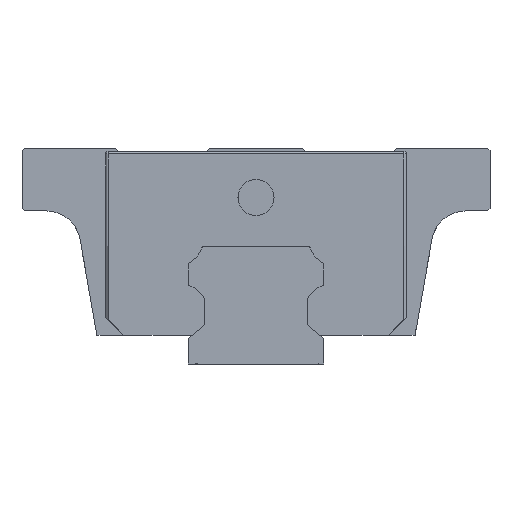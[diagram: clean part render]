
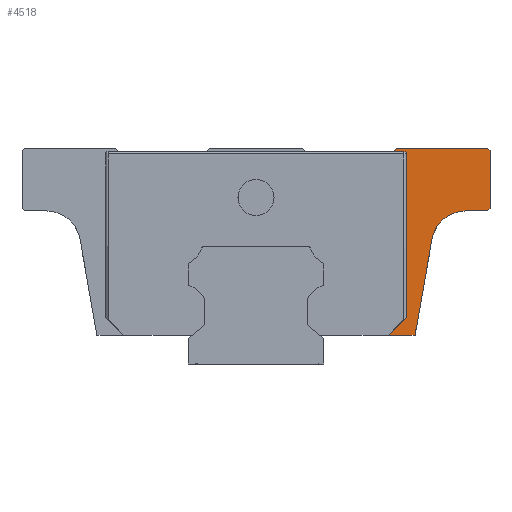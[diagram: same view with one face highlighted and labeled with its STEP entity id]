
A CAD part, left-side view. The second image highlights one B-rep face of the part: STEP entity #4518.
In plain terms, the highlighted planar face has unit normal (-1, 0, 0).
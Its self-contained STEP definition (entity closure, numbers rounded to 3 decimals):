
#110 = VECTOR ( 'NONE', #6209, 1000. ) ;
#151 = CARTESIAN_POINT ( 'NONE',  ( -19.75, -26., 17. ) ) ;
#153 = CARTESIAN_POINT ( 'NONE',  ( -19.75, -15.6, 24. ) ) ;
#235 = CARTESIAN_POINT ( 'NONE',  ( -19.75, -17.674, 3.2 ) ) ;
#236 = DIRECTION ( 'NONE',  ( -1., 0., 0. ) ) ;
#281 = EDGE_CURVE ( 'NONE', #586, #2156, #6918, .T. ) ;
#282 = ORIENTED_EDGE ( 'NONE', *, *, #3561, .T. ) ;
#306 = CIRCLE ( 'NONE', #4285, 0.26 ) ;
#524 = ORIENTED_EDGE ( 'NONE', *, *, #2426, .T. ) ;
#565 = ORIENTED_EDGE ( 'NONE', *, *, #2037, .T. ) ;
#586 = VERTEX_POINT ( 'NONE', #1784 ) ;
#601 = ORIENTED_EDGE ( 'NONE', *, *, #281, .T. ) ;
#622 = VERTEX_POINT ( 'NONE', #4623 ) ;
#764 = CARTESIAN_POINT ( 'NONE',  ( -19.75, -26.564, 23.176 ) ) ;
#798 = VECTOR ( 'NONE', #5285, 1000. ) ;
#809 = DIRECTION ( 'NONE',  ( 0., 0.707, 0.707 ) ) ;
#839 = VERTEX_POINT ( 'NONE', #2692 ) ;
#859 = DIRECTION ( 'NONE',  ( 1., 0., 0. ) ) ;
#982 = CARTESIAN_POINT ( 'NONE',  ( -19.75, -23.254, 17. ) ) ;
#1015 = VECTOR ( 'NONE', #2920, 1000. ) ;
#1051 = CARTESIAN_POINT ( 'NONE',  ( -19.75, -14.696, 3.2 ) ) ;
#1133 = ORIENTED_EDGE ( 'NONE', *, *, #1495, .F. ) ;
#1140 = VECTOR ( 'NONE', #809, 1000. ) ;
#1141 = EDGE_CURVE ( 'NONE', #5805, #586, #6848, .T. ) ;
#1201 = ORIENTED_EDGE ( 'NONE', *, *, #2658, .F. ) ;
#1423 = CARTESIAN_POINT ( 'NONE',  ( -19.75, -6.587, 3.2 ) ) ;
#1438 = CARTESIAN_POINT ( 'NONE',  ( -19.75, -26., 23.74 ) ) ;
#1472 = DIRECTION ( 'NONE',  ( 0., 0., 1. ) ) ;
#1495 = EDGE_CURVE ( 'NONE', #2737, #6194, #5773, .T. ) ;
#1564 = EDGE_CURVE ( 'NONE', #3236, #2979, #306, .T. ) ;
#1574 = CARTESIAN_POINT ( 'NONE',  ( -19.75, -25.74, 24. ) ) ;
#1674 = ORIENTED_EDGE ( 'NONE', *, *, #2132, .T. ) ;
#1684 = ORIENTED_EDGE ( 'NONE', *, *, #1141, .T. ) ;
#1711 = VECTOR ( 'NONE', #4687, 1000. ) ;
#1784 = CARTESIAN_POINT ( 'NONE',  ( -19.75, -25.74, 17. ) ) ;
#1925 = DIRECTION ( 'NONE',  ( 0., -1., 0. ) ) ;
#1960 = CARTESIAN_POINT ( 'NONE',  ( -19.75, -20.108, 17. ) ) ;
#1965 = CARTESIAN_POINT ( 'NONE',  ( -19.75, -16.702, 5.2 ) ) ;
#2037 = EDGE_CURVE ( 'NONE', #3796, #4396, #3375, .T. ) ;
#2118 = DIRECTION ( 'NONE',  ( 0., -1., 0. ) ) ;
#2123 = ORIENTED_EDGE ( 'NONE', *, *, #6130, .T. ) ;
#2129 = VECTOR ( 'NONE', #1925, 1000. ) ;
#2132 = EDGE_CURVE ( 'NONE', #4396, #839, #3478, .T. ) ;
#2155 = ORIENTED_EDGE ( 'NONE', *, *, #1564, .T. ) ;
#2156 = VERTEX_POINT ( 'NONE', #5826 ) ;
#2308 = ORIENTED_EDGE ( 'NONE', *, *, #5130, .T. ) ;
#2426 = EDGE_CURVE ( 'NONE', #839, #7030, #6650, .T. ) ;
#2620 = ORIENTED_EDGE ( 'NONE', *, *, #4033, .F. ) ;
#2658 = EDGE_CURVE ( 'NONE', #6194, #2979, #6346, .T. ) ;
#2692 = CARTESIAN_POINT ( 'NONE',  ( -19.75, -15.6, 24. ) ) ;
#2737 = VERTEX_POINT ( 'NONE', #1051 ) ;
#2818 = CARTESIAN_POINT ( 'NONE',  ( -19.75, -16.442, 23.595 ) ) ;
#2868 = LINE ( 'NONE', #151, #798 ) ;
#2920 = DIRECTION ( 'NONE',  ( 0., 1., 0. ) ) ;
#2979 = VERTEX_POINT ( 'NONE', #6769 ) ;
#3057 = DIRECTION ( 'NONE',  ( 0., -0.174, 0.985 ) ) ;
#3104 = CARTESIAN_POINT ( 'NONE',  ( -19.75, -14.696, 3.2 ) ) ;
#3236 = VERTEX_POINT ( 'NONE', #2818 ) ;
#3364 = LINE ( 'NONE', #4993, #1015 ) ;
#3375 = LINE ( 'NONE', #764, #1140 ) ;
#3478 = LINE ( 'NONE', #5651, #1711 ) ;
#3561 = EDGE_CURVE ( 'NONE', #622, #5805, #5451, .T. ) ;
#3641 = DIRECTION ( 'NONE',  ( 0., 0., 1. ) ) ;
#3796 = VERTEX_POINT ( 'NONE', #1438 ) ;
#3896 = CARTESIAN_POINT ( 'NONE',  ( -19.75, -17.674, 3.2 ) ) ;
#3976 = VECTOR ( 'NONE', #1472, 1000. ) ;
#3983 = EDGE_LOOP ( 'NONE', ( #1133, #2308, #6031, #282, #1684, #601, #2123, #565, #1674, #524, #2620, #2155, #1201 ) ) ;
#4033 = EDGE_CURVE ( 'NONE', #3236, #7030, #3364, .T. ) ;
#4061 = DIRECTION ( 'NONE',  ( 0., -0.707, 0.707 ) ) ;
#4085 = PLANE ( 'NONE',  #6516 ) ;
#4132 = VECTOR ( 'NONE', #4061, 1000. ) ;
#4178 = VECTOR ( 'NONE', #3057, 1000. ) ;
#4285 = AXIS2_PLACEMENT_3D ( 'NONE', #5740, #859, #3641 ) ;
#4328 = DIRECTION ( 'NONE',  ( 1., 0., 0. ) ) ;
#4396 = VERTEX_POINT ( 'NONE', #1574 ) ;
#4518 = ADVANCED_FACE ( 'NONE', ( #4620 ), #4085, .T. ) ;
#4602 = CARTESIAN_POINT ( 'NONE',  ( -19.75, -9.264, 0.524 ) ) ;
#4620 = FACE_OUTER_BOUND ( 'NONE', #3983, .T. ) ;
#4623 = CARTESIAN_POINT ( 'NONE',  ( -19.75, -19.561, 13.901 ) ) ;
#4687 = DIRECTION ( 'NONE',  ( 0., 1., 0. ) ) ;
#4834 = LINE ( 'NONE', #7001, #5619 ) ;
#4993 = CARTESIAN_POINT ( 'NONE',  ( -19.75, -18.027, 23.595 ) ) ;
#5130 = EDGE_CURVE ( 'NONE', #2737, #6542, #4834, .T. ) ;
#5270 = DIRECTION ( 'NONE',  ( 0., 0., 1. ) ) ;
#5285 = DIRECTION ( 'NONE',  ( 0., 0., 1. ) ) ;
#5340 = CARTESIAN_POINT ( 'NONE',  ( -19.75, -15.26, 23.595 ) ) ;
#5409 = CARTESIAN_POINT ( 'NONE',  ( -19.75, -23.254, 13.25 ) ) ;
#5442 = VECTOR ( 'NONE', #5847, 1000. ) ;
#5451 = CIRCLE ( 'NONE', #6697, 3.75 ) ;
#5619 = VECTOR ( 'NONE', #2118, 1000. ) ;
#5651 = CARTESIAN_POINT ( 'NONE',  ( -19.75, -26., 24. ) ) ;
#5697 = LINE ( 'NONE', #235, #4178 ) ;
#5740 = CARTESIAN_POINT ( 'NONE',  ( -19.75, -16.442, 23.335 ) ) ;
#5773 = LINE ( 'NONE', #3104, #5442 ) ;
#5805 = VERTEX_POINT ( 'NONE', #982 ) ;
#5826 = CARTESIAN_POINT ( 'NONE',  ( -19.75, -26., 17.26 ) ) ;
#5847 = DIRECTION ( 'NONE',  ( 0., -0.707, 0.707 ) ) ;
#6031 = ORIENTED_EDGE ( 'NONE', *, *, #6884, .T. ) ;
#6130 = EDGE_CURVE ( 'NONE', #2156, #3796, #2868, .T. ) ;
#6194 = VERTEX_POINT ( 'NONE', #6956 ) ;
#6209 = DIRECTION ( 'NONE',  ( 0., 0.643, -0.766 ) ) ;
#6346 = LINE ( 'NONE', #1965, #3976 ) ;
#6508 = DIRECTION ( 'NONE',  ( 0., 0., 1. ) ) ;
#6516 = AXIS2_PLACEMENT_3D ( 'NONE', #1423, #236, #5270 ) ;
#6542 = VERTEX_POINT ( 'NONE', #3896 ) ;
#6650 = LINE ( 'NONE', #153, #110 ) ;
#6697 = AXIS2_PLACEMENT_3D ( 'NONE', #5409, #4328, #6508 ) ;
#6769 = CARTESIAN_POINT ( 'NONE',  ( -19.75, -16.702, 23.335 ) ) ;
#6848 = LINE ( 'NONE', #1960, #2129 ) ;
#6884 = EDGE_CURVE ( 'NONE', #6542, #622, #5697, .T. ) ;
#6918 = LINE ( 'NONE', #4602, #4132 ) ;
#6956 = CARTESIAN_POINT ( 'NONE',  ( -19.75, -16.702, 5.206 ) ) ;
#7001 = CARTESIAN_POINT ( 'NONE',  ( -19.75, -8.424, 3.2 ) ) ;
#7030 = VERTEX_POINT ( 'NONE', #5340 ) ;
